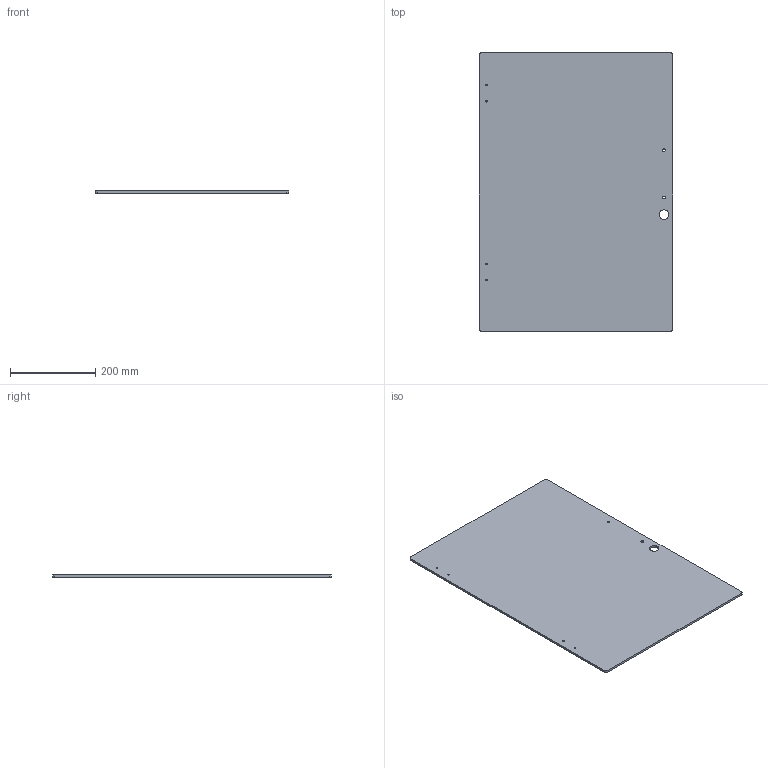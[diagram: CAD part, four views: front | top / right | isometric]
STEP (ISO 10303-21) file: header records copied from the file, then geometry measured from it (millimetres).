
FILE_DESCRIPTION(/* description */ (''),/* implementation_level */ '2;1');
FILE_NAME(/* name */ 'Front Panel P_R.step',/* time_stamp */ '2026-05-15T12:46:28-07:00',/* author */ (''),/* organization */ (''),/* preprocessor_version */ 'ST-DEVELOPER v20.1',/* originating_system */ 'Autodesk Translation Framework v15.8.0.0',/* authorisation */ '');
FILE_SCHEMA (('AUTOMOTIVE_DESIGN { 1 0 10303 214 3 1 1 }'));
Length unit declared in the file: millimetre
Products named in the file (1): Front Panel P_R
Bounding box: 454.66 x 654.3 x 5 mm (x, y, z)
Volume: 1484896.8 mm3; surface area: 605758.7 mm2
Topology: 1 solids, 1 shells, 17 faces, 45 edges, 30 vertices
Faces by surface type: cylinder 11, plane 6
Full cylindrical faces by diameter (mm): 3.332 x4, 6.2 x2, 22.225 x1
Entity records: 602 total; most frequent: DIRECTION 103, CARTESIAN_POINT 93, ORIENTED_EDGE 90, EDGE_CURVE 45, AXIS2_PLACEMENT_3D 40, EDGE_LOOP 31, VERTEX_POINT 30, LINE 23
